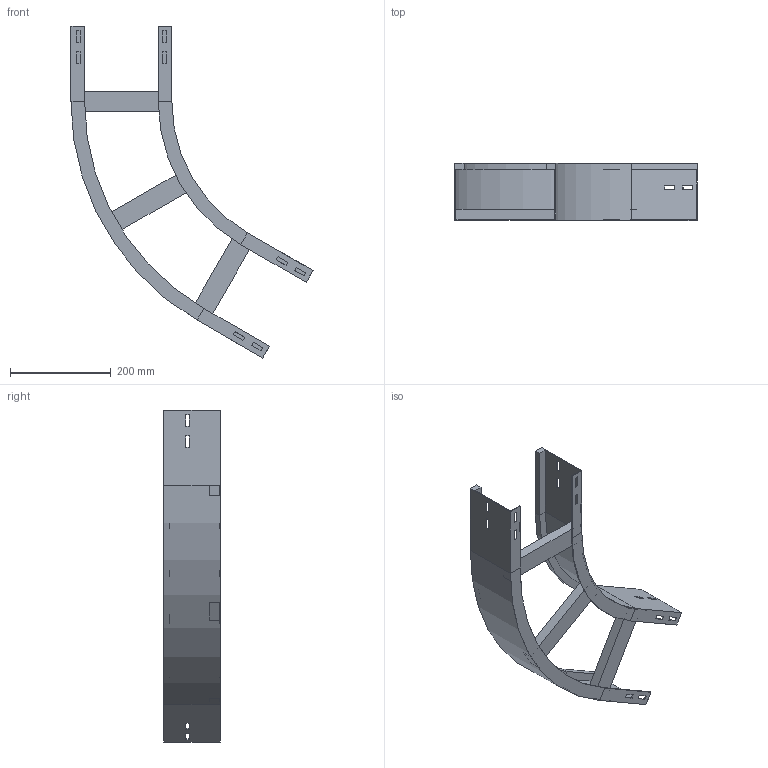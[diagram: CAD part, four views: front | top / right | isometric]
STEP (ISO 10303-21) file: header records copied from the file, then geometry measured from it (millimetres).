
FILE_DESCRIPTION (( 'STEP AP214' ), '1' );
FILE_NAME ('A2_13B3J200.step', '2025-02-21T15:19:21', ( '' ), ( '' ), 'SwSTEP 2.0', 'SolidWorks 2023', '' );
FILE_SCHEMA (( 'AUTOMOTIVE_DESIGN' ));
Length unit declared in the file: millimetre
Products named in the file (4): A2_LONGH.ESTERNO 60°_H112.5_R300+200; A2_13B3J200; TRAVERSINO_200; A2_LONGH.INTERNO 60°_H112.5_R300
Assembly tree (5 placements, depth 2):
  A2_13B3J200
    A2_LONGH.INTERNO 60°_H112.5_R300
    A2_LONGH.ESTERNO 60°_H112.5_R300+200
    TRAVERSINO_200  x3
Bounding box: 479.9 x 112.5 x 658.01 mm (x, y, z)
Volume: 1142785 mm3; surface area: 521946.8 mm2
Topology: 5 solids, 5 shells, 134 faces, 340 edges, 216 vertices
Faces by surface type: plane 126, cylinder 8
Entity records: 3821 total; most frequent: CARTESIAN_POINT 646, ORIENTED_EDGE 632, DIRECTION 592, EDGE_CURVE 316, VECTOR 300, LINE 300, VERTEX_POINT 200, EDGE_LOOP 154
